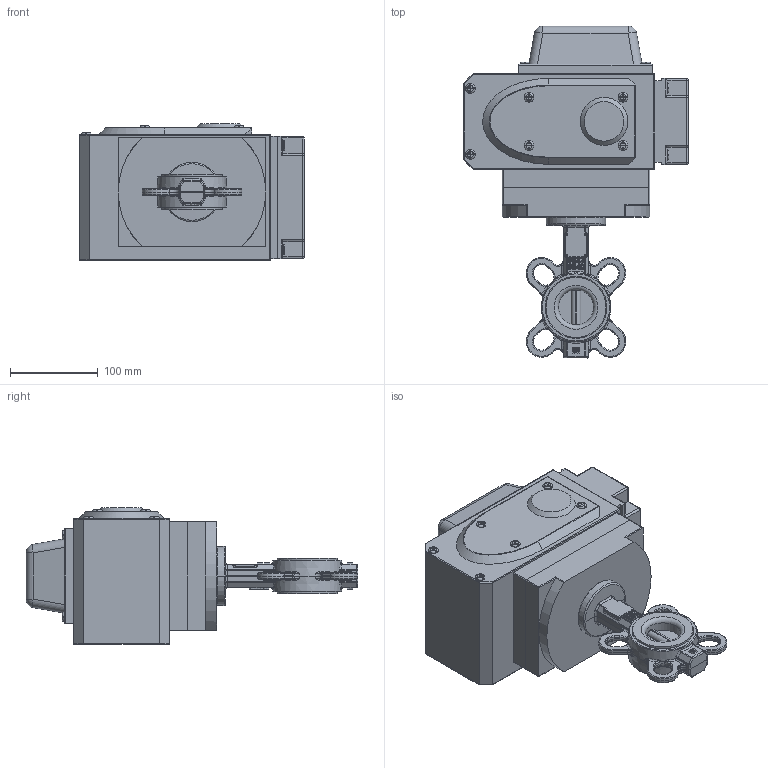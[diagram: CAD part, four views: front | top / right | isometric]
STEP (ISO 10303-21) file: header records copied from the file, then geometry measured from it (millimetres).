
FILE_DESCRIPTION(/* description */ (''),/* implementation_level */ '2;1');
FILE_NAME(/* name */ 'RSV81A220_380-DN40.stp',/* time_stamp */ '2024-08-20T14:24:37+07:00',/* author */ ('Eva'),/* organization */ (''),/* preprocessor_version */ 'ST-DEVELOPER v20',/* originating_system */ 'Autodesk Inventor 2025',/* authorisation */ '');
FILE_SCHEMA (('AUTOMOTIVE_DESIGN { 1 0 10303 214 3 1 1 }'));
Products named in the file (7): RSV81A220_380-DN40; 40Ин; 40Ин_1; 40Ин_2; 40Ин_3; 40Ин_4; ѕ«РЎРНµзЧ°
Assembly tree (6 placements, depth 2):
  RSV81A220_380-DN40
    40Ин
    40Ин_1
    40Ин_2
    40Ин_3
    40Ин_4
    ѕ«РЎРНµзЧ°
Bounding box: 256 x 378.12 x 156 mm (x, y, z)
Volume: 5996763.9 mm3; surface area: 294357.7 mm2
Topology: 6 solids, 6 shells, 1210 faces, 3147 edges, 1902 vertices
Faces by surface type: plane 576, bspline 231, cylinder 206, torus 122, cone 43, sphere 32
Full cylindrical faces by diameter (mm): 11.037 x4, 11.059 x6, 11.745 x4, 40 x2, 68.535 x1
Entity records: 60901 total; most frequent: CARTESIAN_POINT 32377, ORIENTED_EDGE 6106, DIRECTION 5477, EDGE_CURVE 3053, AXIS2_PLACEMENT_3D 1999, VERTEX_POINT 1902, LINE 1479, VECTOR 1479
